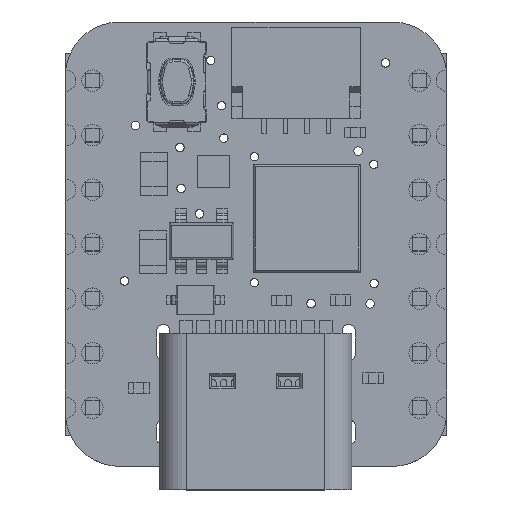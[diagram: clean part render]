
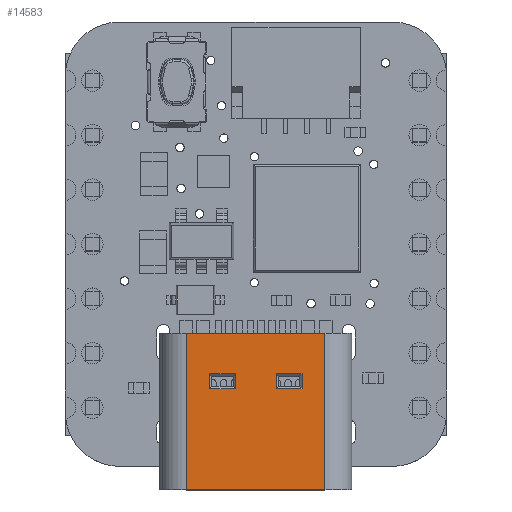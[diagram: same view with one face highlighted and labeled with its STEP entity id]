
A CAD part, top view. The second image highlights one B-rep face of the part: STEP entity #14583.
In plain terms, the highlighted planar face has unit normal (0, 0, 1).
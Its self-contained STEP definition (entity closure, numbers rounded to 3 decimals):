
#441 = VERTEX_POINT ( 'NONE', #45449 ) ;
#720 = EDGE_LOOP ( 'NONE', ( #28196, #9137, #57139, #17484 ) ) ;
#2477 = VERTEX_POINT ( 'NONE', #24793 ) ;
#2939 = CARTESIAN_POINT ( 'NONE',  ( 0.943, 1.505, 3.21 ) ) ;
#3492 = DIRECTION ( 'NONE',  ( 0., -1., 0. ) ) ;
#3831 = VECTOR ( 'NONE', #51201, 1000. ) ;
#4085 = VERTEX_POINT ( 'NONE', #24523 ) ;
#4248 = CARTESIAN_POINT ( 'NONE',  ( 3.213, -3.895, 3.21 ) ) ;
#4327 = LINE ( 'NONE', #26203, #28092 ) ;
#5799 = VERTEX_POINT ( 'NONE', #34649 ) ;
#7807 = EDGE_CURVE ( 'NONE', #18718, #57581, #45817, .T. ) ;
#7858 = VERTEX_POINT ( 'NONE', #59013 ) ;
#9137 = ORIENTED_EDGE ( 'NONE', *, *, #57443, .T. ) ;
#10037 = VECTOR ( 'NONE', #48206, 1000. ) ;
#10369 = EDGE_CURVE ( 'NONE', #5799, #31250, #20613, .T. ) ;
#10673 = VERTEX_POINT ( 'NONE', #44159 ) ;
#12044 = ORIENTED_EDGE ( 'NONE', *, *, #12750, .T. ) ;
#12750 = EDGE_CURVE ( 'NONE', #4085, #441, #27942, .T. ) ;
#13869 = LINE ( 'NONE', #4248, #45464 ) ;
#14413 = CARTESIAN_POINT ( 'NONE',  ( 3.213, -3.895, 3.21 ) ) ;
#14442 = ORIENTED_EDGE ( 'NONE', *, *, #10369, .T. ) ;
#14551 = CARTESIAN_POINT ( 'NONE',  ( -2.158, 1.505, 3.21 ) ) ;
#14583 = ADVANCED_FACE ( 'NONE', ( #36234, #54455, #40392 ), #22730, .F. ) ;
#14751 = CARTESIAN_POINT ( 'NONE',  ( 2.143, 0.805, 3.21 ) ) ;
#15404 = CARTESIAN_POINT ( 'NONE',  ( -2.158, 0.805, 3.21 ) ) ;
#16430 = LINE ( 'NONE', #30486, #50683 ) ;
#17484 = ORIENTED_EDGE ( 'NONE', *, *, #42325, .T. ) ;
#18406 = ORIENTED_EDGE ( 'NONE', *, *, #25506, .T. ) ;
#18409 = LINE ( 'NONE', #31301, #58789 ) ;
#18718 = VERTEX_POINT ( 'NONE', #44975 ) ;
#19098 = ORIENTED_EDGE ( 'NONE', *, *, #27520, .T. ) ;
#20613 = LINE ( 'NONE', #2939, #22092 ) ;
#21288 = ORIENTED_EDGE ( 'NONE', *, *, #56628, .T. ) ;
#21726 = DIRECTION ( 'NONE',  ( 0., 1., 0. ) ) ;
#22092 = VECTOR ( 'NONE', #39777, 1000. ) ;
#22715 = EDGE_LOOP ( 'NONE', ( #14442, #51011, #12044, #57403 ) ) ;
#22730 = PLANE ( 'NONE',  #56935 ) ;
#24145 = EDGE_LOOP ( 'NONE', ( #21288, #19098, #28908, #18406 ) ) ;
#24523 = CARTESIAN_POINT ( 'NONE',  ( 2.143, 0.805, 3.21 ) ) ;
#24793 = CARTESIAN_POINT ( 'NONE',  ( 3.213, -3.895, 3.21 ) ) ;
#25506 = EDGE_CURVE ( 'NONE', #45130, #36933, #4327, .T. ) ;
#25561 = DIRECTION ( 'NONE',  ( -1., 0., 0. ) ) ;
#25948 = LINE ( 'NONE', #44179, #35976 ) ;
#26203 = CARTESIAN_POINT ( 'NONE',  ( -2.158, 0.805, 3.21 ) ) ;
#26810 = EDGE_CURVE ( 'NONE', #441, #5799, #18409, .T. ) ;
#26924 = CARTESIAN_POINT ( 'NONE',  ( -4.477, -3.895, 3.21 ) ) ;
#27520 = EDGE_CURVE ( 'NONE', #41081, #10673, #58309, .T. ) ;
#27884 = LINE ( 'NONE', #14413, #3831 ) ;
#27942 = LINE ( 'NONE', #14751, #34381 ) ;
#28092 = VECTOR ( 'NONE', #21726, 1000. ) ;
#28196 = ORIENTED_EDGE ( 'NONE', *, *, #7807, .T. ) ;
#28908 = ORIENTED_EDGE ( 'NONE', *, *, #48254, .T. ) ;
#29975 = CARTESIAN_POINT ( 'NONE',  ( -2.158, 1.505, 3.21 ) ) ;
#30486 = CARTESIAN_POINT ( 'NONE',  ( 2.143, 1.505, 3.21 ) ) ;
#31250 = VERTEX_POINT ( 'NONE', #53797 ) ;
#31301 = CARTESIAN_POINT ( 'NONE',  ( 0.943, 0.805, 3.21 ) ) ;
#32400 = CARTESIAN_POINT ( 'NONE',  ( 3.213, 3.405, 3.21 ) ) ;
#33985 = CARTESIAN_POINT ( 'NONE',  ( -0.958, 0.805, 3.21 ) ) ;
#34287 = LINE ( 'NONE', #33985, #56050 ) ;
#34381 = VECTOR ( 'NONE', #47049, 1000. ) ;
#34503 = EDGE_CURVE ( 'NONE', #2477, #7858, #13869, .T. ) ;
#34649 = CARTESIAN_POINT ( 'NONE',  ( 0.943, 1.505, 3.21 ) ) ;
#35976 = VECTOR ( 'NONE', #3492, 1000. ) ;
#36234 = FACE_BOUND ( 'NONE', #22715, .T. ) ;
#36933 = VERTEX_POINT ( 'NONE', #14551 ) ;
#39757 = CARTESIAN_POINT ( 'NONE',  ( -0.958, 1.505, 3.21 ) ) ;
#39777 = DIRECTION ( 'NONE',  ( 1., 0., 0. ) ) ;
#40392 = FACE_OUTER_BOUND ( 'NONE', #720, .T. ) ;
#40457 = DIRECTION ( 'NONE',  ( -1., 0., 0. ) ) ;
#41081 = VERTEX_POINT ( 'NONE', #45146 ) ;
#41793 = CARTESIAN_POINT ( 'NONE',  ( -3.227, 3.405, 3.21 ) ) ;
#42325 = EDGE_CURVE ( 'NONE', #2477, #18718, #27884, .T. ) ;
#44159 = CARTESIAN_POINT ( 'NONE',  ( -0.958, 0.805, 3.21 ) ) ;
#44179 = CARTESIAN_POINT ( 'NONE',  ( -3.227, -3.895, 3.21 ) ) ;
#44975 = CARTESIAN_POINT ( 'NONE',  ( 3.213, 3.405, 3.21 ) ) ;
#45130 = VERTEX_POINT ( 'NONE', #15404 ) ;
#45146 = CARTESIAN_POINT ( 'NONE',  ( -0.958, 1.505, 3.21 ) ) ;
#45449 = CARTESIAN_POINT ( 'NONE',  ( 0.943, 0.805, 3.21 ) ) ;
#45459 = DIRECTION ( 'NONE',  ( 0., 0., -1. ) ) ;
#45464 = VECTOR ( 'NONE', #55446, 1000. ) ;
#45817 = LINE ( 'NONE', #32400, #59143 ) ;
#47049 = DIRECTION ( 'NONE',  ( -1., 0., 0. ) ) ;
#48206 = DIRECTION ( 'NONE',  ( 1., 0., 0. ) ) ;
#48254 = EDGE_CURVE ( 'NONE', #10673, #45130, #34287, .T. ) ;
#49945 = DIRECTION ( 'NONE',  ( 0., -1., 0. ) ) ;
#50683 = VECTOR ( 'NONE', #58326, 1000. ) ;
#51011 = ORIENTED_EDGE ( 'NONE', *, *, #51937, .T. ) ;
#51157 = VECTOR ( 'NONE', #58009, 1000. ) ;
#51201 = DIRECTION ( 'NONE',  ( 0., 1., 0. ) ) ;
#51937 = EDGE_CURVE ( 'NONE', #31250, #4085, #16430, .T. ) ;
#52376 = DIRECTION ( 'NONE',  ( 0., 1., 0. ) ) ;
#52722 = LINE ( 'NONE', #29975, #10037 ) ;
#53797 = CARTESIAN_POINT ( 'NONE',  ( 2.143, 1.505, 3.21 ) ) ;
#54455 = FACE_BOUND ( 'NONE', #24145, .T. ) ;
#55446 = DIRECTION ( 'NONE',  ( -1., 0., 0. ) ) ;
#56050 = VECTOR ( 'NONE', #25561, 1000. ) ;
#56628 = EDGE_CURVE ( 'NONE', #36933, #41081, #52722, .T. ) ;
#56935 = AXIS2_PLACEMENT_3D ( 'NONE', #26924, #45459, #49945 ) ;
#57139 = ORIENTED_EDGE ( 'NONE', *, *, #34503, .F. ) ;
#57403 = ORIENTED_EDGE ( 'NONE', *, *, #26810, .T. ) ;
#57443 = EDGE_CURVE ( 'NONE', #57581, #7858, #25948, .T. ) ;
#57581 = VERTEX_POINT ( 'NONE', #41793 ) ;
#58009 = DIRECTION ( 'NONE',  ( 0., -1., 0. ) ) ;
#58309 = LINE ( 'NONE', #39757, #51157 ) ;
#58326 = DIRECTION ( 'NONE',  ( 0., -1., 0. ) ) ;
#58789 = VECTOR ( 'NONE', #52376, 1000. ) ;
#59013 = CARTESIAN_POINT ( 'NONE',  ( -3.227, -3.895, 3.21 ) ) ;
#59143 = VECTOR ( 'NONE', #40457, 1000. ) ;
